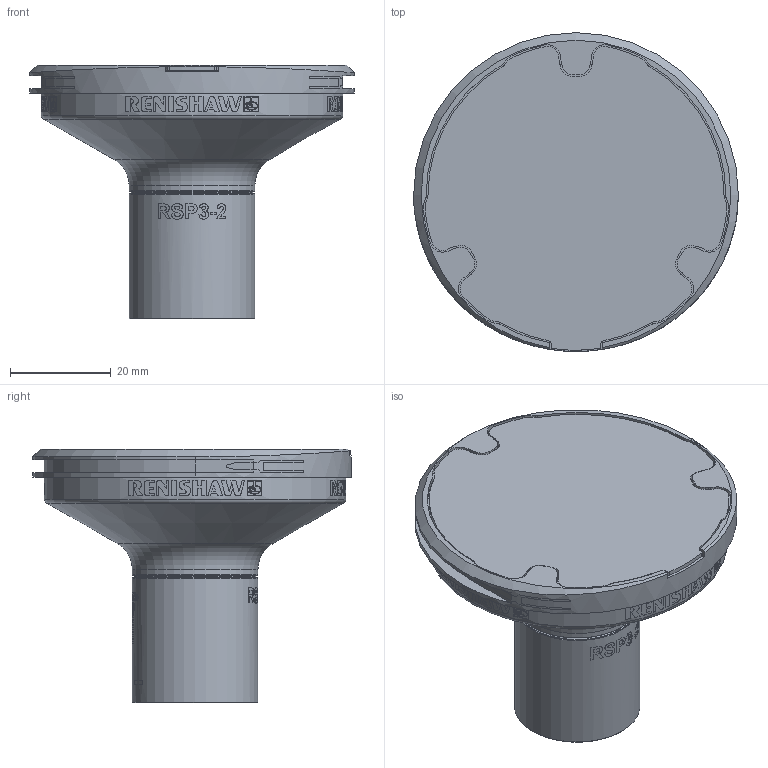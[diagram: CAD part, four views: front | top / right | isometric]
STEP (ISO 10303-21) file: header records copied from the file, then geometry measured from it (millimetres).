
FILE_DESCRIPTION(/* description */ (''),/* implementation_level */ '2;1');
FILE_NAME(/* name */ 'LA_3061_2306_D.stp',/* time_stamp */ '2014-02-06T13:12:15+00:00',/* author */ (''),/* organization */ (''),/* preprocessor_version */ 'ST-DEVELOPER v11',/* originating_system */ 'SIEMENS PLM Software NX 7.5',/* authorisation */ '');
FILE_SCHEMA (('AUTOMOTIVE_DESIGN { 1 0 10303 214 1 1 1 1 }'));
Length unit declared in the file: millimetre
Products named in the file (1): sj10D26Fkfu4
Bounding box: 64.6 x 63.35 x 50.43 mm (x, y, z)
Volume: 59804.3 mm3; surface area: 12006.8 mm2
Topology: 1 solids, 1 shells, 287 faces, 1357 edges, 1161 vertices
Faces by surface type: cylinder 242, plane 33, cone 5, extrusion 4, torus 3
Full cylindrical faces by diameter (mm): 24.1 x1, 24.2 x1, 25 x2, 60 x1
Entity records: 18198 total; most frequent: CARTESIAN_POINT 6289, ORIENTED_EDGE 2642, DIRECTION 1333, EDGE_CURVE 1321, VERTEX_POINT 1143, B_SPLINE_CURVE_WITH_KNOTS 819, AXIS2_PLACEMENT_3D 553, EDGE_LOOP 390
